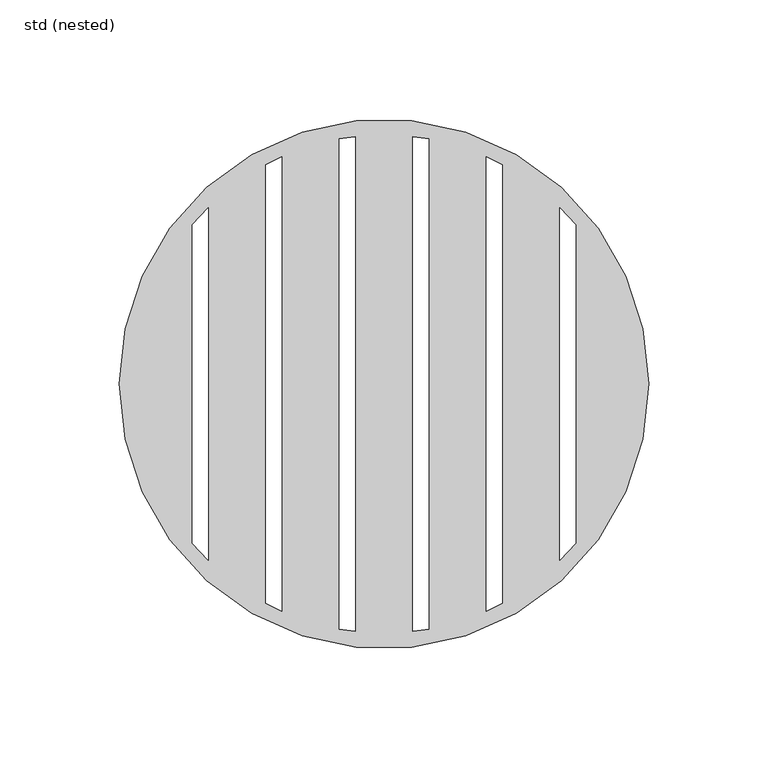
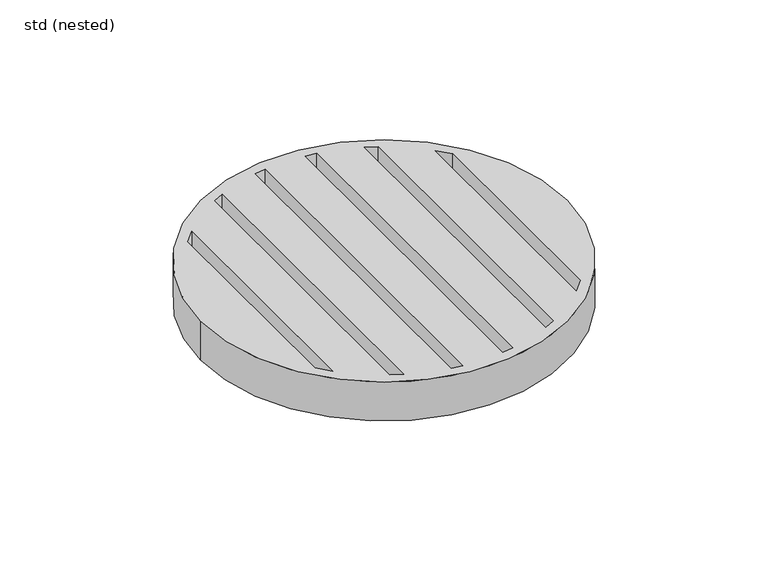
"""IFC4 building model written with IfcOpenShell, lengths in millimetres: sanitary terminal geometry, ZZZ_do not use_PF_ST_UN_round grating for vinyl top_ACO : std (nested)."""

from ifc_helpers import new_model, si_unit, point, frame, origin, origin_2d, place, context, project, spatial, polyline, circle_curve, trimmed, segment, composite_curve, outline, extrude, source, transform, mapped, element, save


def std_nested_4763630c(model_context):
    return source(origin(), model_context, "Body", "SweptSolid", [
        extrude(outline(composite_curve([segment(trimmed(circle_curve(origin_2d(), 111.0), [point((-111.0, 0.0))], [point((111.0, 0.0))], False, "CARTESIAN"), True, "CONTINUOUS"), segment(trimmed(circle_curve(origin_2d(), 111.0), [point((111.0, 0.0))], [point((-111.0, 0.0))], False, "CARTESIAN"), True, "CONTINUOUS")], self_intersect=False), holes=[composite_curve([segment(polyline([(73.7823529, 73.9612615), (73.7823529, -73.9612615)]), True, "CONTINUOUS"), segment(trimmed(circle_curve(origin_2d(), 104.4705882), [point((73.7823529, -73.9612615))], [point((80.3117647, -66.8141022))], True, "CARTESIAN"), True, "CONTINUOUS"), segment(polyline([(80.3117647, -66.8141022), (80.3117647, 66.8141022)]), True, "CONTINUOUS"), segment(trimmed(circle_curve(origin_2d(), 104.4705882), [point((80.3117647, 66.8141022))], [point((73.7823529, 73.9612615))], True, "CARTESIAN"), True, "CONTINUOUS")], self_intersect=False), composite_curve([segment(polyline([(42.9635294, 95.2273015), (42.9635294, -95.2273015)]), True, "CONTINUOUS"), segment(trimmed(circle_curve(origin_2d(), 104.4705882), [point((42.9635294, -95.2273015))], [point((49.4929412, -92.0030031))], True, "CARTESIAN"), True, "CONTINUOUS"), segment(polyline([(49.4929412, -92.0030031), (49.4929412, 92.0030031)]), True, "CONTINUOUS"), segment(trimmed(circle_curve(origin_2d(), 104.4705882), [point((49.4929412, 92.0030031))], [point((42.9635294, 95.2273015))], True, "CARTESIAN"), True, "CONTINUOUS")], self_intersect=False), composite_curve([segment(polyline([(12.1447059, 103.762276), (12.1447059, -103.762276)]), True, "CONTINUOUS"), segment(trimmed(circle_curve(origin_2d(), 104.4705882), [point((12.1447059, -103.762276))], [point((18.6741176, -102.7880399))], True, "CARTESIAN"), True, "CONTINUOUS"), segment(polyline([(18.6741176, -102.7880399), (18.6741176, 102.7880399)]), True, "CONTINUOUS"), segment(trimmed(circle_curve(origin_2d(), 104.4705882), [point((18.6741176, 102.7880399))], [point((12.1447059, 103.762276))], True, "CARTESIAN"), True, "CONTINUOUS")], self_intersect=False), composite_curve([segment(polyline([(-18.6741176, 102.7880399), (-18.6741176, -102.7880399)]), True, "CONTINUOUS"), segment(trimmed(circle_curve(origin_2d(), 104.4705882), [point((-18.6741176, -102.7880399))], [point((-12.1447059, -103.762276))], True, "CARTESIAN"), True, "CONTINUOUS"), segment(polyline([(-12.1447059, -103.762276), (-12.1447059, 103.762276)]), True, "CONTINUOUS"), segment(trimmed(circle_curve(origin_2d(), 104.4705882), [point((-12.1447059, 103.762276))], [point((-18.6741176, 102.7880399))], True, "CARTESIAN"), True, "CONTINUOUS")], self_intersect=False), composite_curve([segment(polyline([(-49.4929412, 92.0030031), (-49.4929412, -92.0030031)]), True, "CONTINUOUS"), segment(trimmed(circle_curve(origin_2d(), 104.4705882), [point((-49.4929412, -92.0030031))], [point((-42.9635294, -95.2273015))], True, "CARTESIAN"), True, "CONTINUOUS"), segment(polyline([(-42.9635294, -95.2273015), (-42.9635294, 95.2273015)]), True, "CONTINUOUS"), segment(trimmed(circle_curve(origin_2d(), 104.4705882), [point((-42.9635294, 95.2273015))], [point((-49.4929412, 92.0030031))], True, "CARTESIAN"), True, "CONTINUOUS")], self_intersect=False), composite_curve([segment(polyline([(-80.3117647, 66.8141022), (-80.3117647, -66.8141022)]), True, "CONTINUOUS"), segment(trimmed(circle_curve(origin_2d(), 104.4705882), [point((-80.3117647, -66.8141022))], [point((-73.7823529, -73.9612615))], True, "CARTESIAN"), True, "CONTINUOUS"), segment(polyline([(-73.7823529, -73.9612615), (-73.7823529, 73.9612615)]), True, "CONTINUOUS"), segment(trimmed(circle_curve(origin_2d(), 104.4705882), [point((-73.7823529, 73.9612615))], [point((-80.3117647, 66.8141022))], True, "CARTESIAN"), True, "CONTINUOUS")], self_intersect=False)]), frame((0.0, 0.0, -25.0), z_axis=(0.0, 0.0, 1.0), x_axis=(1.0, 0.0, 0.0)), (0.0, 0.0, 1.0), 25.0),
    ])


if __name__ == "__main__":
    model = new_model("IFC4")
    model_context = context("Model", 3, world=origin())
    ifc_project = project(units=[si_unit("LENGTHUNIT", "METRE", prefix="MILLI")], contexts=[model_context])
    site = spatial("IfcSite", under=ifc_project)
    building = spatial("IfcBuilding", under=site)
    placement = place(None, origin())
    std_nested_shape = std_nested_4763630c(model_context)
    element("IfcSanitaryTerminal", 1, ObjectType="ZZZ_do not use_PF_ST_UN_round grating for vinyl top_ACO : std (nested)", at=placement, inside=building, context=model_context, shape_type="MappedRepresentation", body=[
        mapped(std_nested_shape, transform((0.0, 0.0, 0.0), x_axis=(1.0, 0.0, 0.0), y_axis=(0.0, 1.0, 0.0), z_axis=(0.0, 0.0, 1.0))),
    ])
    save(model, "model.ifc")
